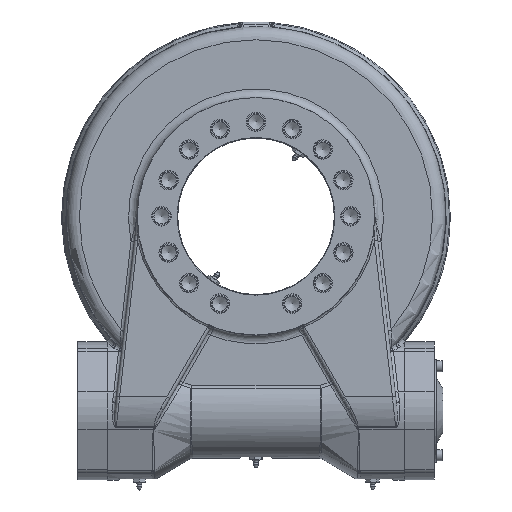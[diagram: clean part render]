
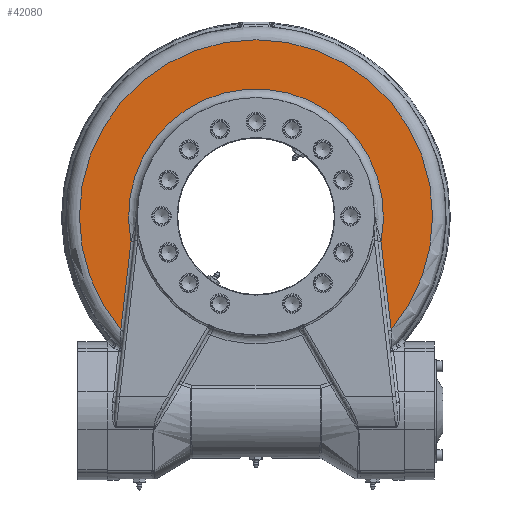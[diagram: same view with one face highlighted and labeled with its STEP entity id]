
A CAD part, top view. The second image highlights one B-rep face of the part: STEP entity #42080.
In plain terms, the highlighted planar face has unit normal (0, 0, 1).
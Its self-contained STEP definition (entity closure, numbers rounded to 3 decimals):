
#222 = EDGE_CURVE ( 'NONE', #6954, #5312, #29509, .T. ) ;
#4604 = DIRECTION ( 'NONE',  ( 0.115, 0.993, 0. ) ) ;
#4923 = CARTESIAN_POINT ( 'NONE',  ( -92.917, 174.221, 38. ) ) ;
#5312 = VERTEX_POINT ( 'NONE', #11009 ) ;
#6608 = CIRCLE ( 'NONE', #45484, 163.5 ) ;
#6739 = DIRECTION ( 'NONE',  ( 0.115, -0.993, 0. ) ) ;
#6954 = VERTEX_POINT ( 'NONE', #12549 ) ;
#9578 = EDGE_CURVE ( 'NONE', #5312, #10698, #6608, .T. ) ;
#10027 = PLANE ( 'NONE',  #44846 ) ;
#10698 = VERTEX_POINT ( 'NONE', #19130 ) ;
#11009 = CARTESIAN_POINT ( 'NONE',  ( 125.159, -105.202, 38. ) ) ;
#12098 = CARTESIAN_POINT ( 'NONE',  ( -115.697, -23.2, 38. ) ) ;
#12549 = CARTESIAN_POINT ( 'NONE',  ( 115.697, -23.2, 38. ) ) ;
#13308 = VERTEX_POINT ( 'NONE', #12098 ) ;
#13376 = EDGE_CURVE ( 'NONE', #6954, #13308, #42711, .T. ) ;
#14653 = ORIENTED_EDGE ( 'NONE', *, *, #21869, .T. ) ;
#14811 = DIRECTION ( 'NONE',  ( -1., 0., 0. ) ) ;
#16046 = CARTESIAN_POINT ( 'NONE',  ( 0., 0., 38. ) ) ;
#17912 = CARTESIAN_POINT ( 'NONE',  ( 0., 163.5, 38. ) ) ;
#19130 = CARTESIAN_POINT ( 'NONE',  ( -125.159, -105.202, 38. ) ) ;
#20709 = CARTESIAN_POINT ( 'NONE',  ( 92.917, 174.221, 38. ) ) ;
#21869 = EDGE_CURVE ( 'NONE', #10698, #13308, #41697, .T. ) ;
#22002 = AXIS2_PLACEMENT_3D ( 'NONE', #16046, #35678, #28003 ) ;
#23285 = FACE_OUTER_BOUND ( 'NONE', #38679, .T. ) ;
#25122 = ORIENTED_EDGE ( 'NONE', *, *, #222, .T. ) ;
#28003 = DIRECTION ( 'NONE',  ( 1., 0., 0. ) ) ;
#29509 = LINE ( 'NONE', #20709, #43653 ) ;
#29613 = CARTESIAN_POINT ( 'NONE',  ( 0., 0., 38. ) ) ;
#32829 = DIRECTION ( 'NONE',  ( 0., 0., -1. ) ) ;
#35678 = DIRECTION ( 'NONE',  ( 0., 0., 1. ) ) ;
#36419 = VECTOR ( 'NONE', #4604, 1000. ) ;
#37708 = DIRECTION ( 'NONE',  ( 0., 0., 1. ) ) ;
#38196 = DIRECTION ( 'NONE',  ( 1., 0., 0. ) ) ;
#38679 = EDGE_LOOP ( 'NONE', ( #41164, #25122, #45724, #14653 ) ) ;
#41164 = ORIENTED_EDGE ( 'NONE', *, *, #13376, .F. ) ;
#41697 = LINE ( 'NONE', #4923, #36419 ) ;
#42080 = ADVANCED_FACE ( 'NONE', ( #23285 ), #10027, .F. ) ;
#42711 = CIRCLE ( 'NONE', #22002, 118. ) ;
#43653 = VECTOR ( 'NONE', #6739, 1000. ) ;
#44846 = AXIS2_PLACEMENT_3D ( 'NONE', #17912, #32829, #14811 ) ;
#45484 = AXIS2_PLACEMENT_3D ( 'NONE', #29613, #37708, #38196 ) ;
#45724 = ORIENTED_EDGE ( 'NONE', *, *, #9578, .T. ) ;
